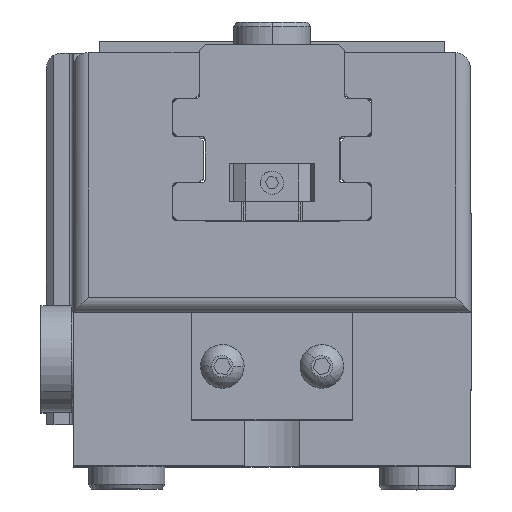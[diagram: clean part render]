
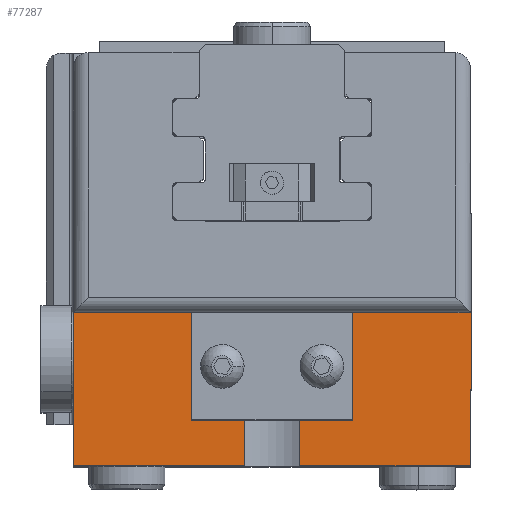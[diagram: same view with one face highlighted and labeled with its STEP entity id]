
A CAD part, top view. The second image highlights one B-rep face of the part: STEP entity #77287.
In plain terms, the highlighted planar face has unit normal (0, 0, 1).
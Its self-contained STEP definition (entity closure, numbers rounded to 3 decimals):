
#326 = DIRECTION ( 'NONE',  ( 0., 0., -1. ) ) ;
#544 = ORIENTED_EDGE ( 'NONE', *, *, #22608, .F. ) ;
#926 = DIRECTION ( 'NONE',  ( -1., 0., 0. ) ) ;
#2207 = VERTEX_POINT ( 'NONE', #2645 ) ;
#2321 = DIRECTION ( 'NONE',  ( 1., 0., 0. ) ) ;
#2645 = CARTESIAN_POINT ( 'NONE',  ( -3.606, 0., 40.5 ) ) ;
#2995 = VECTOR ( 'NONE', #101240, 1000. ) ;
#3273 = AXIS2_PLACEMENT_3D ( 'NONE', #11323, #84414, #2321 ) ;
#7344 = CARTESIAN_POINT ( 'NONE',  ( -26., 20., 40.5 ) ) ;
#8744 = PLANE ( 'NONE',  #9258 ) ;
#8786 = EDGE_LOOP ( 'NONE', ( #97367, #34818 ) ) ;
#8797 = ORIENTED_EDGE ( 'NONE', *, *, #47707, .F. ) ;
#9258 = AXIS2_PLACEMENT_3D ( 'NONE', #109393, #326, #926 ) ;
#11323 = CARTESIAN_POINT ( 'NONE',  ( 6.5, 13., 40.5 ) ) ;
#13751 = VERTEX_POINT ( 'NONE', #7344 ) ;
#14202 = CARTESIAN_POINT ( 'NONE',  ( 3.606, 0., 40.5 ) ) ;
#17247 = VERTEX_POINT ( 'NONE', #110991 ) ;
#19255 = ORIENTED_EDGE ( 'NONE', *, *, #62277, .F. ) ;
#19289 = LINE ( 'NONE', #19890, #51706 ) ;
#19683 = DIRECTION ( 'NONE',  ( 1., 0., 0. ) ) ;
#19890 = CARTESIAN_POINT ( 'NONE',  ( -32.5, 6., 40.5 ) ) ;
#19999 = LINE ( 'NONE', #48731, #70449 ) ;
#22070 = LINE ( 'NONE', #68180, #60163 ) ;
#22449 = DIRECTION ( 'NONE',  ( 1., 0., 0. ) ) ;
#22608 = EDGE_CURVE ( 'NONE', #17247, #65824, #110830, .T. ) ;
#23428 = DIRECTION ( 'NONE',  ( 1., 0., 0. ) ) ;
#26267 = CIRCLE ( 'NONE', #3273, 1.25 ) ;
#27781 = DIRECTION ( 'NONE',  ( 0., -1., 0. ) ) ;
#28476 = FACE_BOUND ( 'NONE', #8786, .T. ) ;
#29665 = LINE ( 'NONE', #48831, #85932 ) ;
#31086 = VERTEX_POINT ( 'NONE', #38138 ) ;
#31776 = VECTOR ( 'NONE', #47957, 1000. ) ;
#32325 = AXIS2_PLACEMENT_3D ( 'NONE', #103730, #86933, #32396 ) ;
#32349 = ORIENTED_EDGE ( 'NONE', *, *, #35590, .T. ) ;
#32396 = DIRECTION ( 'NONE',  ( 1., 0., 0. ) ) ;
#34818 = ORIENTED_EDGE ( 'NONE', *, *, #113690, .F. ) ;
#35590 = EDGE_CURVE ( 'NONE', #81905, #2207, #22070, .T. ) ;
#35694 = FACE_OUTER_BOUND ( 'NONE', #86006, .T. ) ;
#36988 = EDGE_CURVE ( 'NONE', #110748, #65824, #63769, .T. ) ;
#37315 = VECTOR ( 'NONE', #91354, 1000. ) ;
#37776 = LINE ( 'NONE', #76113, #31776 ) ;
#38138 = CARTESIAN_POINT ( 'NONE',  ( 26., 10., 40.5 ) ) ;
#38801 = VECTOR ( 'NONE', #74811, 1000. ) ;
#39683 = EDGE_CURVE ( 'NONE', #77782, #2207, #19999, .T. ) ;
#40136 = EDGE_CURVE ( 'NONE', #95176, #92426, #55214, .T. ) ;
#40426 = CARTESIAN_POINT ( 'NONE',  ( -6.5, 13., 40.5 ) ) ;
#41393 = DIRECTION ( 'NONE',  ( 0., 0., 1. ) ) ;
#43012 = ORIENTED_EDGE ( 'NONE', *, *, #43903, .F. ) ;
#43160 = VERTEX_POINT ( 'NONE', #75875 ) ;
#43903 = EDGE_CURVE ( 'NONE', #57337, #77782, #19289, .T. ) ;
#47707 = EDGE_CURVE ( 'NONE', #13751, #114785, #29665, .T. ) ;
#47957 = DIRECTION ( 'NONE',  ( 0., 1., 0. ) ) ;
#48090 = CARTESIAN_POINT ( 'NONE',  ( -26., 0., 40.5 ) ) ;
#48667 = CARTESIAN_POINT ( 'NONE',  ( 7.75, 13., 40.5 ) ) ;
#48731 = CARTESIAN_POINT ( 'NONE',  ( -3.606, 0., 40.5 ) ) ;
#48831 = CARTESIAN_POINT ( 'NONE',  ( -32.5, 20., 40.5 ) ) ;
#51524 = ORIENTED_EDGE ( 'NONE', *, *, #36988, .T. ) ;
#51706 = VECTOR ( 'NONE', #56450, 1000. ) ;
#53682 = EDGE_CURVE ( 'NONE', #114785, #31086, #76598, .T. ) ;
#54072 = CARTESIAN_POINT ( 'NONE',  ( 26., 20., 40.5 ) ) ;
#55095 = CARTESIAN_POINT ( 'NONE',  ( 25.9, 0., 40.5 ) ) ;
#55214 = CIRCLE ( 'NONE', #32325, 1.25 ) ;
#56162 = VECTOR ( 'NONE', #103087, 1000. ) ;
#56450 = DIRECTION ( 'NONE',  ( -1., 0., 0. ) ) ;
#57337 = VERTEX_POINT ( 'NONE', #68626 ) ;
#60163 = VECTOR ( 'NONE', #19683, 1000. ) ;
#61460 = LINE ( 'NONE', #69260, #90811 ) ;
#62277 = EDGE_CURVE ( 'NONE', #92426, #95176, #26267, .T. ) ;
#63769 = LINE ( 'NONE', #72769, #37315 ) ;
#65824 = VERTEX_POINT ( 'NONE', #109572 ) ;
#66656 = ORIENTED_EDGE ( 'NONE', *, *, #70728, .F. ) ;
#68180 = CARTESIAN_POINT ( 'NONE',  ( -32.5, 0., 40.5 ) ) ;
#68626 = CARTESIAN_POINT ( 'NONE',  ( 3.606, 6., 40.5 ) ) ;
#69260 = CARTESIAN_POINT ( 'NONE',  ( -32.5, 10., 40.5 ) ) ;
#69467 = AXIS2_PLACEMENT_3D ( 'NONE', #88131, #41393, #23428 ) ;
#70449 = VECTOR ( 'NONE', #27781, 1000. ) ;
#70728 = EDGE_CURVE ( 'NONE', #110748, #57337, #93514, .T. ) ;
#72769 = CARTESIAN_POINT ( 'NONE',  ( -32.5, 0., 40.5 ) ) ;
#74615 = DIRECTION ( 'NONE',  ( 1., 0., 0. ) ) ;
#74673 = EDGE_LOOP ( 'NONE', ( #91494, #19255 ) ) ;
#74811 = DIRECTION ( 'NONE',  ( 0., -1., 0. ) ) ;
#75215 = CIRCLE ( 'NONE', #69467, 1.25 ) ;
#75799 = EDGE_CURVE ( 'NONE', #81905, #13751, #37776, .T. ) ;
#75875 = CARTESIAN_POINT ( 'NONE',  ( -7.75, 13., 40.5 ) ) ;
#75999 = CARTESIAN_POINT ( 'NONE',  ( 26., 0., 40.5 ) ) ;
#76113 = CARTESIAN_POINT ( 'NONE',  ( -26., 54., 40.5 ) ) ;
#76598 = LINE ( 'NONE', #75999, #38801 ) ;
#76850 = CARTESIAN_POINT ( 'NONE',  ( -3.606, 6., 40.5 ) ) ;
#77287 = ADVANCED_FACE ( 'Faccia25', ( #108807, #28476, #35694 ), #8744, .F. ) ;
#77782 = VERTEX_POINT ( 'NONE', #76850 ) ;
#78664 = CIRCLE ( 'NONE', #103573, 1.25 ) ;
#78667 = ORIENTED_EDGE ( 'NONE', *, *, #75799, .F. ) ;
#81905 = VERTEX_POINT ( 'NONE', #48090 ) ;
#84414 = DIRECTION ( 'NONE',  ( 0., 0., 1. ) ) ;
#85932 = VECTOR ( 'NONE', #74615, 1000. ) ;
#86006 = EDGE_LOOP ( 'NONE', ( #88166, #43012, #66656, #51524, #544, #98551, #99706, #8797, #78667, #32349 ) ) ;
#86933 = DIRECTION ( 'NONE',  ( 0., 0., 1. ) ) ;
#88131 = CARTESIAN_POINT ( 'NONE',  ( -6.5, 13., 40.5 ) ) ;
#88166 = ORIENTED_EDGE ( 'NONE', *, *, #39683, .F. ) ;
#90811 = VECTOR ( 'NONE', #114225, 1000. ) ;
#91354 = DIRECTION ( 'NONE',  ( 1., 0., 0. ) ) ;
#91494 = ORIENTED_EDGE ( 'NONE', *, *, #40136, .F. ) ;
#92426 = VERTEX_POINT ( 'NONE', #111433 ) ;
#93514 = LINE ( 'NONE', #112070, #56162 ) ;
#93743 = VERTEX_POINT ( 'NONE', #97973 ) ;
#95176 = VERTEX_POINT ( 'NONE', #48667 ) ;
#97367 = ORIENTED_EDGE ( 'NONE', *, *, #107315, .F. ) ;
#97807 = EDGE_CURVE ( 'NONE', #17247, #31086, #61460, .T. ) ;
#97973 = CARTESIAN_POINT ( 'NONE',  ( -5.25, 13., 40.5 ) ) ;
#98551 = ORIENTED_EDGE ( 'NONE', *, *, #97807, .T. ) ;
#99706 = ORIENTED_EDGE ( 'NONE', *, *, #53682, .F. ) ;
#101240 = DIRECTION ( 'NONE',  ( 0., -1., 0. ) ) ;
#103087 = DIRECTION ( 'NONE',  ( 0., 1., 0. ) ) ;
#103573 = AXIS2_PLACEMENT_3D ( 'NONE', #40426, #104545, #22449 ) ;
#103730 = CARTESIAN_POINT ( 'NONE',  ( 6.5, 13., 40.5 ) ) ;
#104545 = DIRECTION ( 'NONE',  ( 0., 0., 1. ) ) ;
#107315 = EDGE_CURVE ( 'NONE', #93743, #43160, #78664, .T. ) ;
#108807 = FACE_BOUND ( 'NONE', #74673, .T. ) ;
#109393 = CARTESIAN_POINT ( 'NONE',  ( -32.5, 0., 40.5 ) ) ;
#109572 = CARTESIAN_POINT ( 'NONE',  ( 25.9, 0., 40.5 ) ) ;
#110748 = VERTEX_POINT ( 'NONE', #14202 ) ;
#110830 = LINE ( 'NONE', #55095, #2995 ) ;
#110991 = CARTESIAN_POINT ( 'NONE',  ( 25.9, 10., 40.5 ) ) ;
#111433 = CARTESIAN_POINT ( 'NONE',  ( 5.25, 13., 40.5 ) ) ;
#112070 = CARTESIAN_POINT ( 'NONE',  ( 3.606, 0., 40.5 ) ) ;
#113690 = EDGE_CURVE ( 'NONE', #43160, #93743, #75215, .T. ) ;
#114225 = DIRECTION ( 'NONE',  ( 1., 0., 0. ) ) ;
#114785 = VERTEX_POINT ( 'NONE', #54072 ) ;
